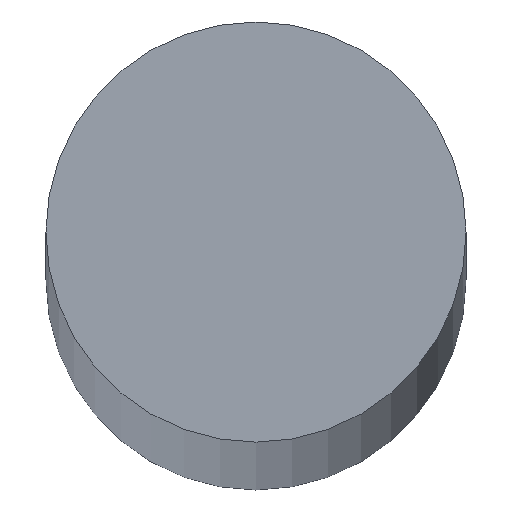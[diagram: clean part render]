
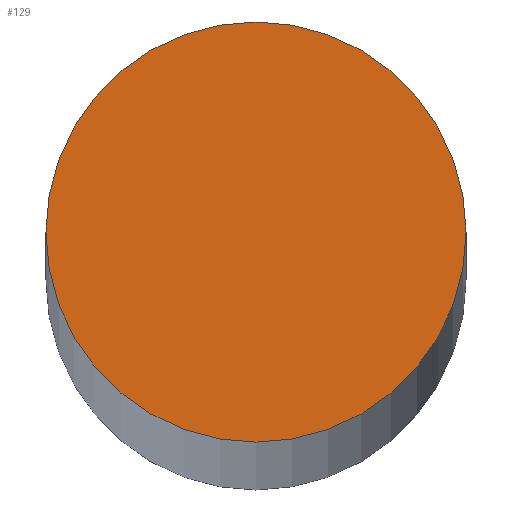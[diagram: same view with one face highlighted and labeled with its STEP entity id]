
A CAD part, top view. The second image highlights one B-rep face of the part: STEP entity #129.
In plain terms, the highlighted planar face has unit normal (0, 0, 1).
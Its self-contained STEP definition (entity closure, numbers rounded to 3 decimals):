
#2 = VERTEX_POINT ( 'NONE', #135 ) ;
#4 = CARTESIAN_POINT ( 'NONE',  ( 0., 0., 391.5 ) ) ;
#5 = DIRECTION ( 'NONE',  ( 0., 0., 1. ) ) ;
#6 = DIRECTION ( 'NONE',  ( 1., 0., 0. ) ) ;
#10 = CARTESIAN_POINT ( 'NONE',  ( 0., 0., 391.5 ) ) ;
#12 = PLANE ( 'NONE',  #68 ) ;
#13 = DIRECTION ( 'NONE',  ( 0., 0., 1. ) ) ;
#14 = DIRECTION ( 'NONE',  ( 1., 0., 0. ) ) ;
#26 = CARTESIAN_POINT ( 'NONE',  ( 0., 0., 391.5 ) ) ;
#32 = DIRECTION ( 'NONE',  ( 0., 0., 1. ) ) ;
#33 = DIRECTION ( 'NONE',  ( 1., 0., 0. ) ) ;
#39 = CARTESIAN_POINT ( 'NONE',  ( -6., 0., 391.5 ) ) ;
#61 = EDGE_CURVE ( 'NONE', #2, #139, #96, .T. ) ;
#65 = AXIS2_PLACEMENT_3D ( 'NONE', #4, #5, #6 ) ;
#68 = AXIS2_PLACEMENT_3D ( 'NONE', #26, #32, #33 ) ;
#73 = EDGE_CURVE ( 'NONE', #139, #2, #112, .T. ) ;
#75 = AXIS2_PLACEMENT_3D ( 'NONE', #10, #13, #14 ) ;
#93 = EDGE_LOOP ( 'NONE', ( #100, #99 ) ) ;
#96 = CIRCLE ( 'NONE', #65, 6. ) ;
#99 = ORIENTED_EDGE ( 'NONE', *, *, #61, .T. ) ;
#100 = ORIENTED_EDGE ( 'NONE', *, *, #73, .T. ) ;
#112 = CIRCLE ( 'NONE', #75, 6. ) ;
#120 = FACE_OUTER_BOUND ( 'NONE', #93, .T. ) ;
#129 = ADVANCED_FACE ( 'NONE', ( #120 ), #12, .T. ) ;
#135 = CARTESIAN_POINT ( 'NONE',  ( 6., 0., 391.5 ) ) ;
#139 = VERTEX_POINT ( 'NONE', #39 ) ;
